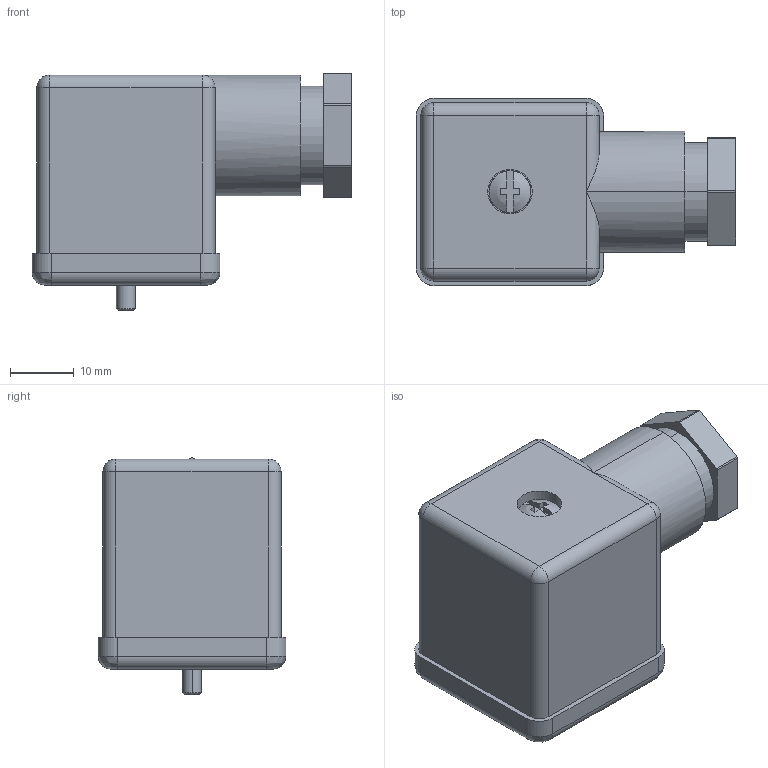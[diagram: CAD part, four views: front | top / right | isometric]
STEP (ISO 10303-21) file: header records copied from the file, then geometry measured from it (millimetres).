
FILE_DESCRIPTION((''),'2;1');
FILE_NAME('K1_GR','2018-10-15T',('l.soukupova'),(''),'PRO/ENGINEER BY PARAMETRIC TECHNOLOGY CORPORATION, 2015440','PRO/ENGINEER BY PARAMETRIC TECHNOLOGY CORPORATION, 2015440','');
FILE_SCHEMA(('AUTOMOTIVE_DESIGN { 1 0 10303 214 1 1 1 1 }'));
Length unit declared in the file: millimetre
Products named in the file (1): K1_GR
Bounding box: 50.25 x 29.5 x 37.25 mm (x, y, z)
Volume: 29331.6 mm3; surface area: 7901.6 mm2
Topology: 1 solids, 1 shells, 118 faces, 295 edges, 204 vertices
Faces by surface type: plane 67, cylinder 37, sphere 6, bspline 4, torus 2, cone 2
Entity records: 5012 total; most frequent: CARTESIAN_POINT 680, DIRECTION 621, ORIENTED_EDGE 564, PRESENTATION_STYLE_ASSIGNMENT 340, STYLED_ITEM 298, CURVE_STYLE 297, EDGE_CURVE 282, AXIS2_PLACEMENT_3D 212
